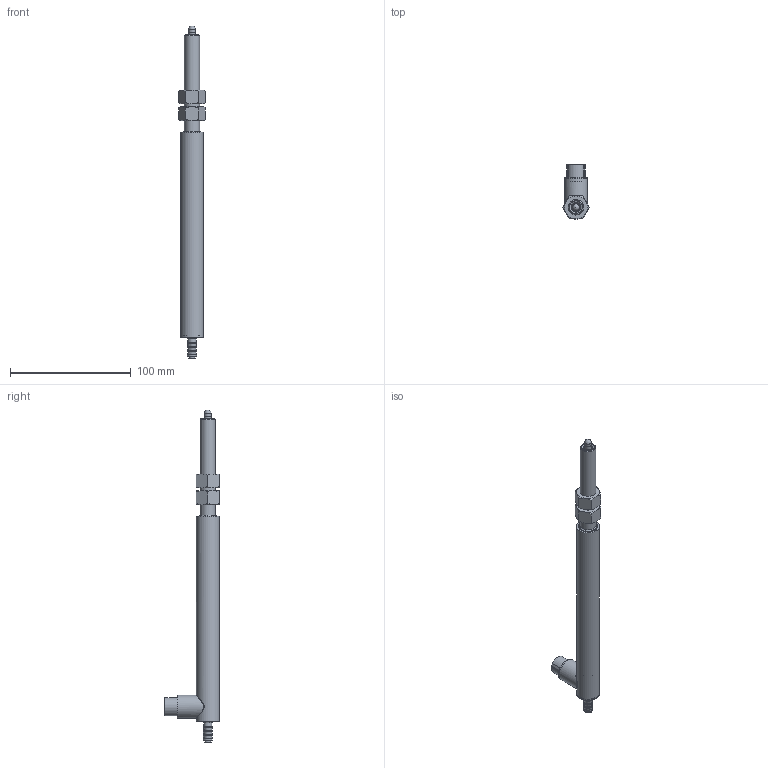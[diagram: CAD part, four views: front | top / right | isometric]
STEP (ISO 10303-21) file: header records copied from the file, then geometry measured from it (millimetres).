
FILE_DESCRIPTION(/* description */ (''),/* implementation_level */ '2;1');
FILE_NAME(/* name */ 'F:\GHRA SERIES\GHRA-750-D-XXXX\GHRA-750-D-500\GHRA-750-D-500 ASSEMBLY.iam.stp',/* time_stamp */ '2021-11-17T12:46:51-05:00',/* author */ ('J. Nielson'),/* organization */ (''),/* preprocessor_version */ 'ST-DEVELOPER v18.1',/* originating_system */ 'Autodesk Inventor 2022',/* authorisation */ '');
FILE_SCHEMA (('AUTOMOTIVE_DESIGN { 1 0 10303 214 3 1 1 }'));
Length unit declared in the file: inch
Products named in the file (4): GHRA-750-A-500 ASSEMBLY; GHRA-750-A-500 HOUSING_SW; GHRA-750-A-500 SHAFT_SW; AS 2465 - 1/2  UNF
Assembly tree (4 placements, depth 2):
  GHRA-750-A-500 ASSEMBLY
    GHRA-750-A-500 HOUSING_SW
    GHRA-750-A-500 SHAFT_SW
    AS 2465 - 1/2  UNF  x2
Bounding box: 22 x 45.24 x 275.21 mm (x, y, z)
Volume: 32742.9 mm3; surface area: 36442.2 mm2
Topology: 17 solids, 17 shells, 210 faces, 417 edges, 265 vertices
Faces by surface type: plane 82, cylinder 68, cone 47, bspline 7, torus 5, sphere 1
Full cylindrical faces by diameter (mm): 0.762 x12, 2.845 x3, 4.762 x1, 4.826 x2, 5.334 x4, 5.397 x1, 6 x1, 6.731 x1, 7.493 x4, 7.671 x2, 7.874 x1, 11.328 x2, 12.7 x1, 13.208 x1, 14.986 x1, 15.748 x2, 16.51 x1, 17.018 x1, 17.069 x1, 17.78 x1, 18.034 x1, 18.415 x6, 19.05 x2
Entity records: 7121 total; most frequent: CARTESIAN_POINT 2780, DIRECTION 898, ORIENTED_EDGE 730, AXIS2_PLACEMENT_3D 384, EDGE_CURVE 365, EDGE_LOOP 239, VERTEX_POINT 236, CIRCLE 196
